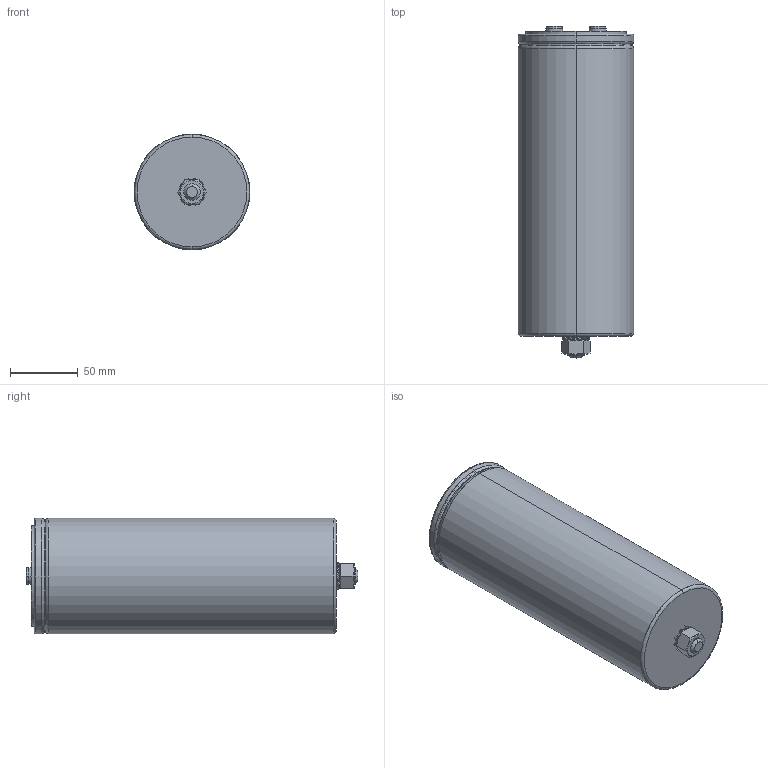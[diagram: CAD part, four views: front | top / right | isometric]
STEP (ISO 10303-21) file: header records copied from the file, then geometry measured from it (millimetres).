
FILE_DESCRIPTION (( 'STEP AP203' ), '1' );
FILE_NAME ('B25620Bx_85x223_229.STEP', '2021-07-01T03:22:48', ( '' ), ( '' ), 'SwSTEP 2.0', 'SolidWorks 2017', '' );
FILE_SCHEMA (( 'CONFIG_CONTROL_DESIGN' ));
Length unit declared in the file: millimetre
Products named in the file (1): B25620Bx_85x223_229
Bounding box: 85.4 x 245 x 85.4 mm (x, y, z)
Volume: 79226.5 mm3; surface area: 147672.2 mm2
Topology: 2 solids, 3 shells, 234 faces, 540 edges, 338 vertices
Faces by surface type: cylinder 85, plane 55, bspline 48, cone 30, torus 16
Entity records: 7453 total; most frequent: CARTESIAN_POINT 2221, ORIENTED_EDGE 1072, DIRECTION 1048, EDGE_CURVE 536, AXIS2_PLACEMENT_3D 423, VERTEX_POINT 338, EDGE_LOOP 266, CIRCLE 236
